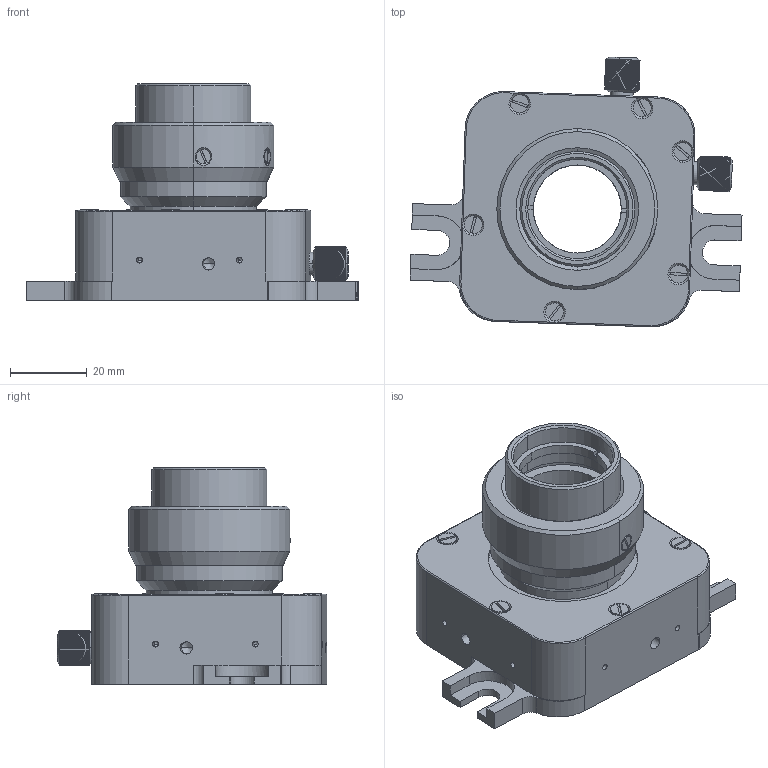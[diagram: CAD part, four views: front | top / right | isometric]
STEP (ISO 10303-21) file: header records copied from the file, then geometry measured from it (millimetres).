
FILE_DESCRIPTION (( 'STEP AP203' ), '1' );
FILE_NAME ('5TOM3-1.STEP', '2011-02-11T08:14:58', ( 'Darius' ), ( '' ), 'SwSTEP 2.0', 'SolidWorks 2003240', '' );
FILE_SCHEMA (( 'CONFIG_CONTROL_DESIGN' ));
Length unit declared in the file: millimetre
Products named in the file (1): 5TOM3-1
Bounding box: 86.64 x 70.43 x 56.5 mm (x, y, z)
Volume: 84391.7 mm3; surface area: 28386.4 mm2
Topology: 1 solids, 6 shells, 622 faces, 1628 edges, 1045 vertices
Faces by surface type: plane 363, cylinder 163, cone 84, bspline 12
Entity records: 19894 total; most frequent: CARTESIAN_POINT 5253, ORIENTED_EDGE 3216, DIRECTION 2765, EDGE_CURVE 1608, VERTEX_POINT 1045, AXIS2_PLACEMENT_3D 1041, VECTOR 683, LINE 683
